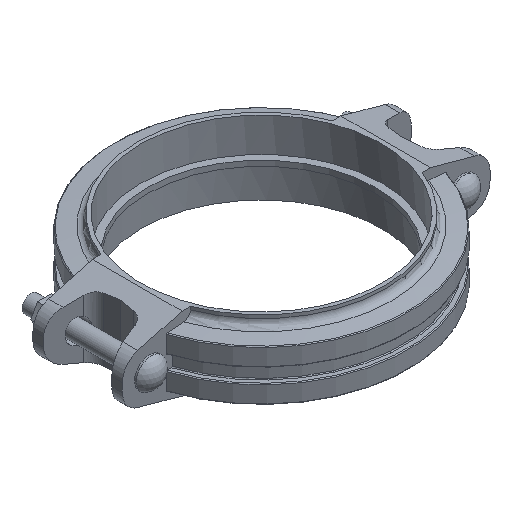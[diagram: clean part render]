
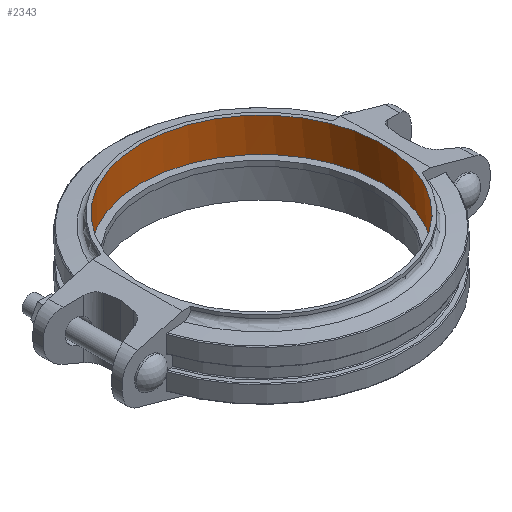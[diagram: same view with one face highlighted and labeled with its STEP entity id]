
A CAD part, isometric view. The second image highlights one B-rep face of the part: STEP entity #2343.
In plain terms, the highlighted cylindrical face has radius 109.537 mm (diameter 219.075 mm), a full revolution.
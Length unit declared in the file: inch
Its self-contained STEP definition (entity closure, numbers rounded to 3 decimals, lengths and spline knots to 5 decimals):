
#212=FACE_OUTER_BOUND('',#331,.T.);
#331=EDGE_LOOP('',(#1502,#1503,#1504,#1505,#1506,#1507));
#458=LINE('',#3413,#641);
#641=VECTOR('',#2744,4.3125);
#827=CIRCLE('',#2484,4.3125);
#828=CIRCLE('',#2485,4.3125);
#829=CIRCLE('',#2487,4.3125);
#830=CIRCLE('',#2488,4.3125);
#917=VERTEX_POINT('',#3407);
#918=VERTEX_POINT('',#3408);
#919=VERTEX_POINT('',#3412);
#920=VERTEX_POINT('',#3414);
#1152=EDGE_CURVE('',#917,#918,#827,.T.);
#1153=EDGE_CURVE('',#918,#917,#828,.T.);
#1154=EDGE_CURVE('',#918,#919,#458,.T.);
#1155=EDGE_CURVE('',#920,#919,#829,.T.);
#1156=EDGE_CURVE('',#919,#920,#830,.T.);
#1502=ORIENTED_EDGE('',*,*,#1152,.T.);
#1503=ORIENTED_EDGE('',*,*,#1154,.T.);
#1504=ORIENTED_EDGE('',*,*,#1155,.F.);
#1505=ORIENTED_EDGE('',*,*,#1156,.F.);
#1506=ORIENTED_EDGE('',*,*,#1154,.F.);
#1507=ORIENTED_EDGE('',*,*,#1153,.T.);
#2183=CYLINDRICAL_SURFACE('',#2486,4.3125);
#2343=ADVANCED_FACE('',(#212),#2183,.F.);
#2484=AXIS2_PLACEMENT_3D('',#3409,#2738,#2739);
#2485=AXIS2_PLACEMENT_3D('',#3410,#2740,#2741);
#2486=AXIS2_PLACEMENT_3D('',#3411,#2742,#2743);
#2487=AXIS2_PLACEMENT_3D('',#3415,#2745,#2746);
#2488=AXIS2_PLACEMENT_3D('',#3416,#2747,#2748);
#2738=DIRECTION('center_axis',(0.,0.,-1.));
#2739=DIRECTION('ref_axis',(0.,-1.,0.));
#2740=DIRECTION('center_axis',(0.,0.,-1.));
#2741=DIRECTION('ref_axis',(0.,-1.,0.));
#2742=DIRECTION('center_axis',(0.,0.,-1.));
#2743=DIRECTION('ref_axis',(0.,-1.,0.));
#2744=DIRECTION('',(0.,0.,1.));
#2745=DIRECTION('center_axis',(0.,0.,-1.));
#2746=DIRECTION('ref_axis',(-1.,0.,0.));
#2747=DIRECTION('center_axis',(0.,0.,-1.));
#2748=DIRECTION('ref_axis',(-1.,0.,0.));
#3407=CARTESIAN_POINT('',(-4.3125,0.,0.095));
#3408=CARTESIAN_POINT('',(0.,4.3125,0.095));
#3409=CARTESIAN_POINT('Origin',(0.,0.,0.095));
#3410=CARTESIAN_POINT('Origin',(0.,0.,0.095));
#3411=CARTESIAN_POINT('Origin',(0.,0.,0.));
#3412=CARTESIAN_POINT('',(0.,4.3125,1.315));
#3413=CARTESIAN_POINT('',(0.,4.3125,0.));
#3414=CARTESIAN_POINT('',(4.0047,1.6,1.315));
#3415=CARTESIAN_POINT('Origin',(0.,0.,1.315));
#3416=CARTESIAN_POINT('Origin',(0.,0.,1.315));
